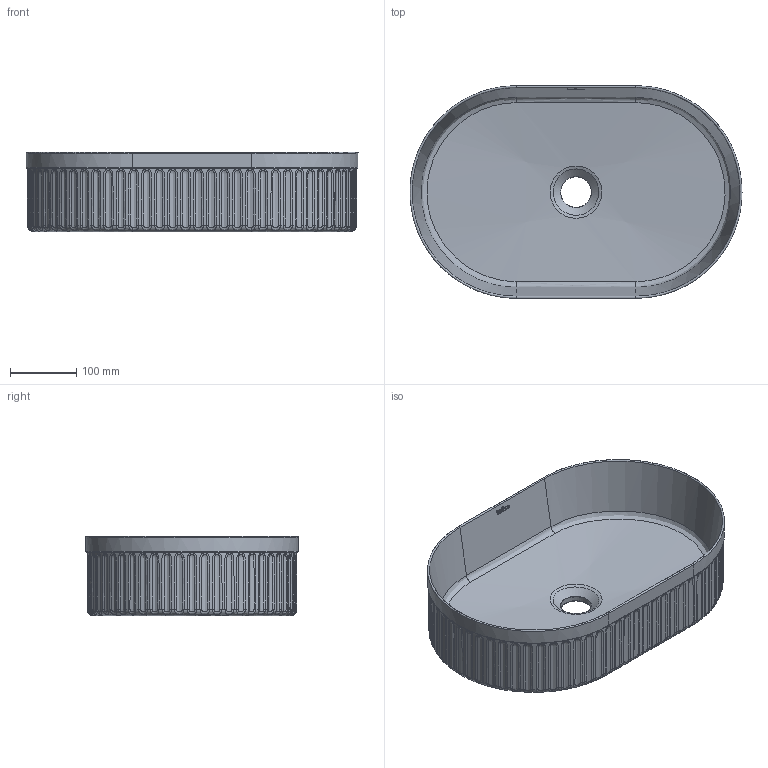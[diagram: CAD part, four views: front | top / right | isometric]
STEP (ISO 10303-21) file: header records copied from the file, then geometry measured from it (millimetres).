
FILE_DESCRIPTION(/* description */ (''),/* implementation_level */ '2;1');
FILE_NAME(/* name */ '4180_W~1',/* time_stamp */ '2024-08-01T15:05:39+02:00',/* author */ (''),/* organization */ (''),/* preprocessor_version */ 'ST-DEVELOPER v16.5',/* originating_system */ '',/* authorisation */ '');
FILE_SCHEMA (('CONFIG_CONTROL_DESIGN'));
Length unit declared in the file: millimetre
Products named in the file (1): Document
Bounding box: 499.85 x 320 x 120 mm (x, y, z)
Volume: 2529476.5 mm3; surface area: 553913.7 mm2
Topology: 7 solids, 7 shells, 348 faces, 800 edges, 466 vertices
Faces by surface type: bspline 271, plane 66, cylinder 11
Full cylindrical faces by diameter (mm): 46 x1
Entity records: 64182 total; most frequent: CARTESIAN_POINT 59622, ORIENTED_EDGE 1600, EDGE_CURVE 800, VERTEX_POINT 466, EDGE_LOOP 356, ADVANCED_FACE 348, FACE_OUTER_BOUND 348, B_SPLINE_CURVE_WITH_KNOTS 273
